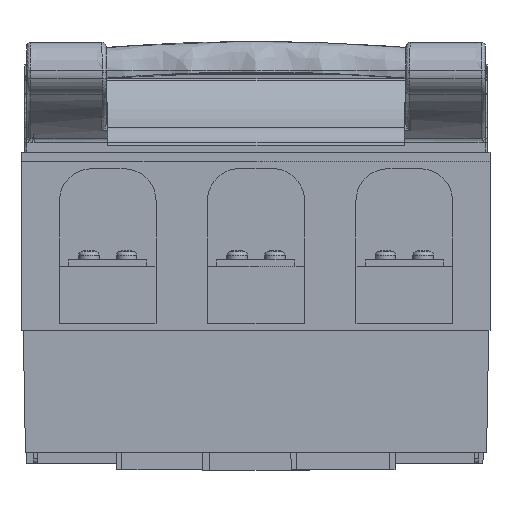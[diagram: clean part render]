
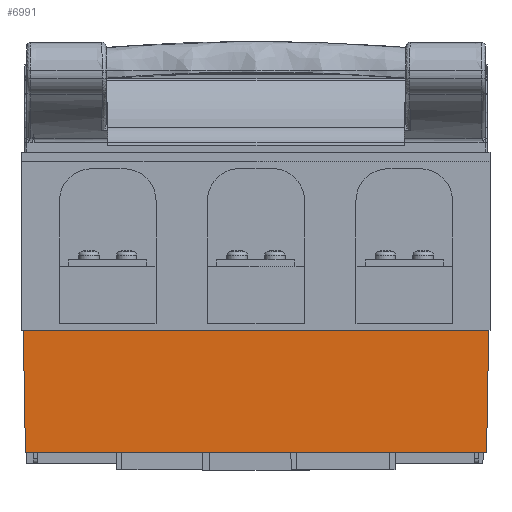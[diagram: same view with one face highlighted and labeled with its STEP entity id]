
A CAD part, left-side view. The second image highlights one B-rep face of the part: STEP entity #6991.
In plain terms, the highlighted planar face has unit normal (-1, 0, -0.018).
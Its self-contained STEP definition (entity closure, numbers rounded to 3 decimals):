
#4511=FACE_OUTER_BOUND('',#11507,.T.);
#6991=ADVANCED_FACE('',(#4511),#9560,.T.);
#9560=PLANE('',#45899);
#11507=EDGE_LOOP('',(#14402,#14403,#14404,#14405));
#14402=ORIENTED_EDGE('',*,*,#32344,.T.);
#14403=ORIENTED_EDGE('',*,*,#32348,.T.);
#14404=ORIENTED_EDGE('',*,*,#32338,.F.);
#14405=ORIENTED_EDGE('',*,*,#32349,.F.);
#27952=VERTEX_POINT('',#63338);
#27953=VERTEX_POINT('',#63339);
#27956=VERTEX_POINT('',#63348);
#27957=VERTEX_POINT('',#63350);
#32338=EDGE_CURVE('',#27952,#27953,#39124,.T.);
#32344=EDGE_CURVE('',#27957,#27956,#39130,.T.);
#32348=EDGE_CURVE('',#27956,#27953,#39134,.T.);
#32349=EDGE_CURVE('',#27957,#27952,#39135,.T.);
#39124=LINE('',#63337,#42518);
#39130=LINE('',#63349,#42524);
#39134=LINE('',#63357,#42528);
#39135=LINE('',#63358,#42529);
#42518=VECTOR('',#50606,1.);
#42524=VECTOR('',#50614,1.);
#42528=VECTOR('',#50620,1.);
#42529=VECTOR('',#50621,1.);
#45899=AXIS2_PLACEMENT_3D('',#63359,#50622,#50623);
#50606=DIRECTION('',(0.017,0.017,-1.));
#50614=DIRECTION('',(0.017,-0.017,-1.));
#50620=DIRECTION('',(0.,-1.,0.));
#50621=DIRECTION('',(0.,-1.,0.));
#50622=DIRECTION('',(-1.,0.,-0.017));
#50623=DIRECTION('',(0.017,0.,-1.));
#63337=CARTESIAN_POINT('',(-55.,-89.5,27.));
#63338=CARTESIAN_POINT('',(-55.,-89.5,27.));
#63339=CARTESIAN_POINT('',(-54.18,-88.68,-20.));
#63348=CARTESIAN_POINT('',(-54.18,88.68,-20.));
#63349=CARTESIAN_POINT('',(-55.,89.5,27.));
#63350=CARTESIAN_POINT('',(-55.,89.5,27.));
#63357=CARTESIAN_POINT('',(-54.18,89.5,-20.));
#63358=CARTESIAN_POINT('',(-55.,89.5,27.));
#63359=CARTESIAN_POINT('',(-55.,89.5,27.));
